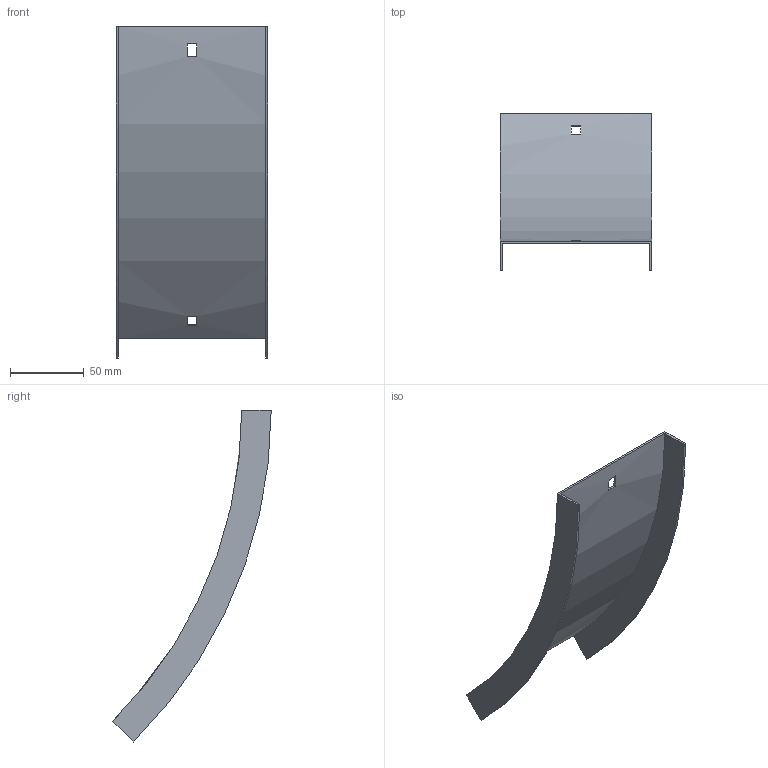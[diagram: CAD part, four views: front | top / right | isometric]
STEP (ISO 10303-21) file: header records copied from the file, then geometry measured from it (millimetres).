
FILE_DESCRIPTION (( 'STEP AP214' ), '1' );
FILE_NAME ('B2X31N3R100X.step', '2025-03-20T09:42:02', ( '' ), ( '' ), 'SwSTEP 2.0', 'SolidWorks 2023', '' );
FILE_SCHEMA (( 'AUTOMOTIVE_DESIGN' ));
Length unit declared in the file: millimetre
Products named in the file (1): B2X31N3R100X
Bounding box: 103 x 107.43 x 225.21 mm (x, y, z)
Volume: 49616.5 mm3; surface area: 67417.2 mm2
Topology: 1 solids, 1 shells, 18 faces, 48 edges, 32 vertices
Faces by surface type: plane 14, cylinder 4
Entity records: 599 total; most frequent: DIRECTION 102, CARTESIAN_POINT 99, ORIENTED_EDGE 96, EDGE_CURVE 48, AXIS2_PLACEMENT_3D 35, VERTEX_POINT 32, VECTOR 32, LINE 32
